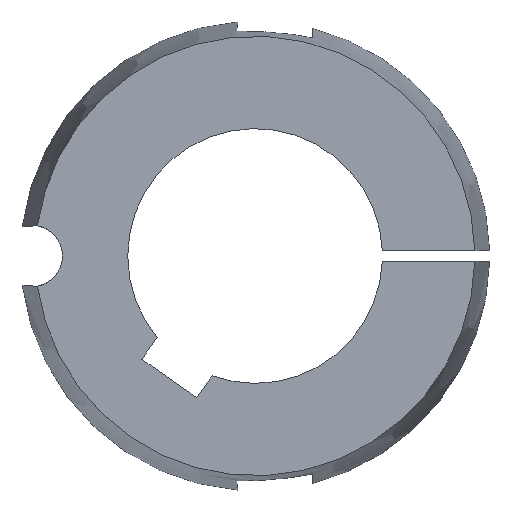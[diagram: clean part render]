
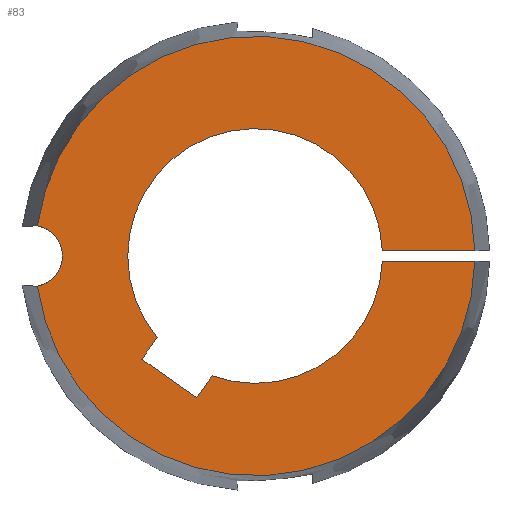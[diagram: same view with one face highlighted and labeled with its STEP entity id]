
A CAD part, left-side view. The second image highlights one B-rep face of the part: STEP entity #83.
In plain terms, the highlighted planar face has unit normal (-1, 0, 0).
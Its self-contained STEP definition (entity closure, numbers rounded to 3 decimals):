
#83 = ADVANCED_FACE( '', ( #108 ), #109, .F. );
#108 = FACE_OUTER_BOUND( '', #140, .T. );
#109 = PLANE( '', #141 );
#140 = EDGE_LOOP( '', ( #220, #221, #222, #223, #224, #225, #226, #227, #228, #229 ) );
#141 = AXIS2_PLACEMENT_3D( '', #230, #231, #232 );
#220 = ORIENTED_EDGE( '', *, *, #293, .T. );
#221 = ORIENTED_EDGE( '', *, *, #319, .F. );
#222 = ORIENTED_EDGE( '', *, *, #320, .T. );
#223 = ORIENTED_EDGE( '', *, *, #305, .T. );
#224 = ORIENTED_EDGE( '', *, *, #303, .T. );
#225 = ORIENTED_EDGE( '', *, *, #300, .T. );
#226 = ORIENTED_EDGE( '', *, *, #310, .T. );
#227 = ORIENTED_EDGE( '', *, *, #321, .T. );
#228 = ORIENTED_EDGE( '', *, *, #294, .T. );
#229 = ORIENTED_EDGE( '', *, *, #322, .F. );
#230 = CARTESIAN_POINT( '', ( -31.8, 0., 0. ) );
#231 = DIRECTION( '', ( 1., 0., 0. ) );
#232 = DIRECTION( '', ( 0., 0., -1. ) );
#293 = EDGE_CURVE( '', #334, #339, #341, .T. );
#294 = EDGE_CURVE( '', #342, #343, #344, .T. );
#300 = EDGE_CURVE( '', #355, #353, #356, .T. );
#303 = EDGE_CURVE( '', #360, #355, #361, .T. );
#305 = EDGE_CURVE( '', #363, #360, #364, .T. );
#310 = EDGE_CURVE( '', #353, #370, #372, .T. );
#319 = EDGE_CURVE( '', #386, #339, #387, .T. );
#320 = EDGE_CURVE( '', #386, #363, #388, .T. );
#321 = EDGE_CURVE( '', #370, #342, #389, .T. );
#322 = EDGE_CURVE( '', #334, #343, #390, .T. );
#334 = VERTEX_POINT( '', #433 );
#339 = VERTEX_POINT( '', #443 );
#341 = CIRCLE( '', #450, 4.6 );
#342 = VERTEX_POINT( '', #451 );
#343 = VERTEX_POINT( '', #452 );
#344 = LINE( '', #453, #454 );
#353 = VERTEX_POINT( '', #472 );
#355 = VERTEX_POINT( '', #475 );
#356 = LINE( '', #476, #477 );
#360 = VERTEX_POINT( '', #483 );
#361 = LINE( '', #484, #485 );
#363 = VERTEX_POINT( '', #488 );
#364 = CIRCLE( '', #489, 19. );
#370 = VERTEX_POINT( '', #497 );
#372 = LINE( '', #500, #501 );
#386 = VERTEX_POINT( '', #516 );
#387 = CIRCLE( '', #517, 32.776 );
#388 = LINE( '', #518, #519 );
#389 = CIRCLE( '', #520, 19. );
#390 = CIRCLE( '', #521, 32.776 );
#433 = CARTESIAN_POINT( '', ( -31.8, 32.464, 4.516 ) );
#443 = CARTESIAN_POINT( '', ( -31.8, 32.464, -4.516 ) );
#450 = AXIS2_PLACEMENT_3D( '', #584, #585, #586 );
#451 = CARTESIAN_POINT( '', ( -31.8, -18.985, 0.75 ) );
#452 = CARTESIAN_POINT( '', ( -31.8, -32.768, 0.75 ) );
#453 = CARTESIAN_POINT( '', ( -31.8, 0., 0.75 ) );
#454 = VECTOR( '', #587, 1000. );
#472 = CARTESIAN_POINT( '', ( -31.8, 16.887, -15.399 ) );
#475 = CARTESIAN_POINT( '', ( -31.8, 8.695, -21.135 ) );
#476 = CARTESIAN_POINT( '', ( -31.8, 8.695, -21.135 ) );
#477 = VECTOR( '', #592, 1000. );
#483 = CARTESIAN_POINT( '', ( -31.8, 6.418, -17.883 ) );
#484 = CARTESIAN_POINT( '', ( -31.8, 6.418, -17.883 ) );
#485 = VECTOR( '', #595, 1000. );
#488 = CARTESIAN_POINT( '', ( -31.8, -18.985, -0.75 ) );
#489 = AXIS2_PLACEMENT_3D( '', #597, #598, #599 );
#497 = CARTESIAN_POINT( '', ( -31.8, 14.61, -12.147 ) );
#500 = CARTESIAN_POINT( '', ( -31.8, 16.887, -15.399 ) );
#501 = VECTOR( '', #606, 1000. );
#516 = CARTESIAN_POINT( '', ( -31.8, -32.768, -0.75 ) );
#517 = AXIS2_PLACEMENT_3D( '', #629, #630, #631 );
#518 = CARTESIAN_POINT( '', ( -31.8, -35., -0.75 ) );
#519 = VECTOR( '', #632, 1000. );
#520 = AXIS2_PLACEMENT_3D( '', #633, #634, #635 );
#521 = AXIS2_PLACEMENT_3D( '', #636, #637, #638 );
#584 = CARTESIAN_POINT( '', ( -31.8, 33.34, 0. ) );
#585 = DIRECTION( '', ( 1., 0., 0. ) );
#586 = DIRECTION( '', ( 0., 1., 0. ) );
#587 = DIRECTION( '', ( 0., -1., 0. ) );
#592 = DIRECTION( '', ( 0., 0.819, 0.574 ) );
#595 = DIRECTION( '', ( 0., 0.574, -0.819 ) );
#597 = CARTESIAN_POINT( '', ( -31.8, 0., 0. ) );
#598 = DIRECTION( '', ( 1., 0., 0. ) );
#599 = DIRECTION( '', ( 0., 0., -1. ) );
#606 = DIRECTION( '', ( 0., -0.574, 0.819 ) );
#629 = CARTESIAN_POINT( '', ( -31.8, 0., 0. ) );
#630 = DIRECTION( '', ( 1., 0., 0. ) );
#631 = DIRECTION( '', ( 0., 0., -1. ) );
#632 = DIRECTION( '', ( 0., 1., 0. ) );
#633 = CARTESIAN_POINT( '', ( -31.8, 0., 0. ) );
#634 = DIRECTION( '', ( 1., 0., 0. ) );
#635 = DIRECTION( '', ( 0., 0., -1. ) );
#636 = CARTESIAN_POINT( '', ( -31.8, 0., 0. ) );
#637 = DIRECTION( '', ( 1., 0., 0. ) );
#638 = DIRECTION( '', ( 0., 0., -1. ) );
